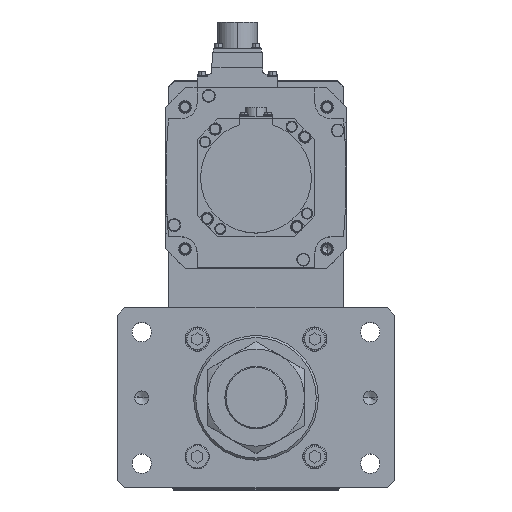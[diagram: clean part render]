
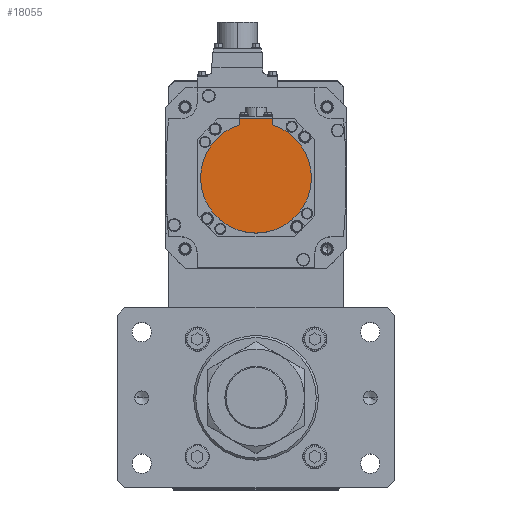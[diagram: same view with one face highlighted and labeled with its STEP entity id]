
A CAD part, top view. The second image highlights one B-rep face of the part: STEP entity #18055.
In plain terms, the highlighted planar face has unit normal (0, 0, 1) as drawn and (0, 0, -1) by its records, which use the part's own axes.
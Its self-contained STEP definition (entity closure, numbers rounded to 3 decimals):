
#440 = LINE ( 'NONE', #30484, #24291 ) ;
#905 = EDGE_CURVE ( 'NONE', #20527, #1766, #1848, .T. ) ;
#1650 = EDGE_LOOP ( 'NONE', ( #21675, #24243, #10424, #16804, #12249, #26084 ) ) ;
#1766 = VERTEX_POINT ( 'NONE', #7585 ) ;
#1848 = CIRCLE ( 'NONE', #27669, 40. ) ;
#2495 = CARTESIAN_POINT ( 'NONE',  ( 0., -1.249, -146.5 ) ) ;
#2504 = DIRECTION ( 'NONE',  ( 0., 0., 1. ) ) ;
#3354 = EDGE_CURVE ( 'NONE', #12428, #26235, #22180, .T. ) ;
#4619 = LINE ( 'NONE', #32604, #22580 ) ;
#5300 = CARTESIAN_POINT ( 'NONE',  ( -40., 0., -146.5 ) ) ;
#7387 = VERTEX_POINT ( 'NONE', #16380 ) ;
#7585 = CARTESIAN_POINT ( 'NONE',  ( -12., -38.158, -146.5 ) ) ;
#8437 = CARTESIAN_POINT ( 'NONE',  ( 12., -42.5, -146.5 ) ) ;
#9708 = EDGE_CURVE ( 'NONE', #32924, #12428, #11487, .T. ) ;
#9828 = EDGE_CURVE ( 'NONE', #26235, #20527, #13183, .T. ) ;
#10424 = ORIENTED_EDGE ( 'NONE', *, *, #9828, .F. ) ;
#10690 = CARTESIAN_POINT ( 'NONE',  ( 0., 0., -146.5 ) ) ;
#10756 = DIRECTION ( 'NONE',  ( 1., 0., 0. ) ) ;
#11203 = EDGE_CURVE ( 'NONE', #32924, #7387, #440, .T. ) ;
#11487 = LINE ( 'NONE', #28258, #20270 ) ;
#11770 = DIRECTION ( 'NONE',  ( 0., 1., 0. ) ) ;
#12249 = ORIENTED_EDGE ( 'NONE', *, *, #9708, .F. ) ;
#12348 = DIRECTION ( 'NONE',  ( 0., 1., 0. ) ) ;
#12428 = VERTEX_POINT ( 'NONE', #17812 ) ;
#13183 = CIRCLE ( 'NONE', #22702, 40. ) ;
#13240 = CARTESIAN_POINT ( 'NONE',  ( 0., 0., -146.5 ) ) ;
#13512 = EDGE_CURVE ( 'NONE', #7387, #1766, #4619, .T. ) ;
#15887 = DIRECTION ( 'NONE',  ( 1., 0., 0. ) ) ;
#15946 = DIRECTION ( 'NONE',  ( 0., 0., 1. ) ) ;
#16380 = CARTESIAN_POINT ( 'NONE',  ( -12., -42.5, -146.5 ) ) ;
#16804 = ORIENTED_EDGE ( 'NONE', *, *, #3354, .F. ) ;
#17310 = DIRECTION ( 'NONE',  ( 0., 0., 1. ) ) ;
#17812 = CARTESIAN_POINT ( 'NONE',  ( 12., -38.158, -146.5 ) ) ;
#18055 = ADVANCED_FACE ( 'NONE', ( #29348 ), #18352, .F. ) ;
#18352 = PLANE ( 'NONE',  #31404 ) ;
#18872 = DIRECTION ( 'NONE',  ( 1., 0., 0. ) ) ;
#20270 = VECTOR ( 'NONE', #12348, 1000. ) ;
#20527 = VERTEX_POINT ( 'NONE', #5300 ) ;
#21675 = ORIENTED_EDGE ( 'NONE', *, *, #13512, .T. ) ;
#22149 = CARTESIAN_POINT ( 'NONE',  ( 40., 0., -146.5 ) ) ;
#22180 = CIRCLE ( 'NONE', #31095, 40. ) ;
#22580 = VECTOR ( 'NONE', #11770, 1000. ) ;
#22702 = AXIS2_PLACEMENT_3D ( 'NONE', #10690, #15946, #18872 ) ;
#24243 = ORIENTED_EDGE ( 'NONE', *, *, #905, .F. ) ;
#24291 = VECTOR ( 'NONE', #33421, 1000. ) ;
#26084 = ORIENTED_EDGE ( 'NONE', *, *, #11203, .T. ) ;
#26235 = VERTEX_POINT ( 'NONE', #22149 ) ;
#27669 = AXIS2_PLACEMENT_3D ( 'NONE', #13240, #2504, #10756 ) ;
#28064 = DIRECTION ( 'NONE',  ( 1., 0., 0. ) ) ;
#28258 = CARTESIAN_POINT ( 'NONE',  ( 12., -1.249, -146.5 ) ) ;
#29348 = FACE_OUTER_BOUND ( 'NONE', #1650, .T. ) ;
#30484 = CARTESIAN_POINT ( 'NONE',  ( 0., -42.5, -146.5 ) ) ;
#31095 = AXIS2_PLACEMENT_3D ( 'NONE', #33217, #17310, #28064 ) ;
#31404 = AXIS2_PLACEMENT_3D ( 'NONE', #2495, #32121, #15887 ) ;
#32121 = DIRECTION ( 'NONE',  ( 0., 0., 1. ) ) ;
#32604 = CARTESIAN_POINT ( 'NONE',  ( -12., -40.329, -146.5 ) ) ;
#32924 = VERTEX_POINT ( 'NONE', #8437 ) ;
#33217 = CARTESIAN_POINT ( 'NONE',  ( 0., 0., -146.5 ) ) ;
#33421 = DIRECTION ( 'NONE',  ( -1., 0., 0. ) ) ;
